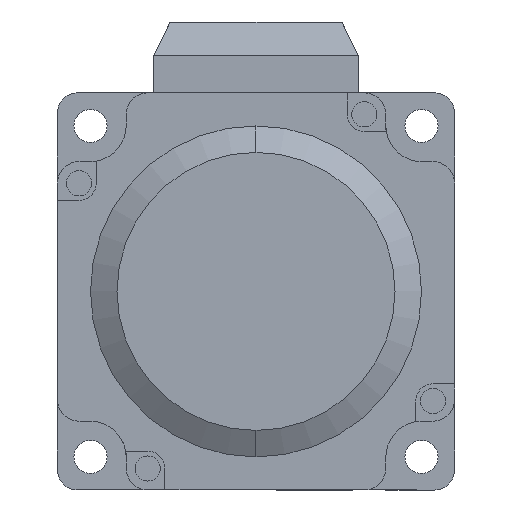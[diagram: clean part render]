
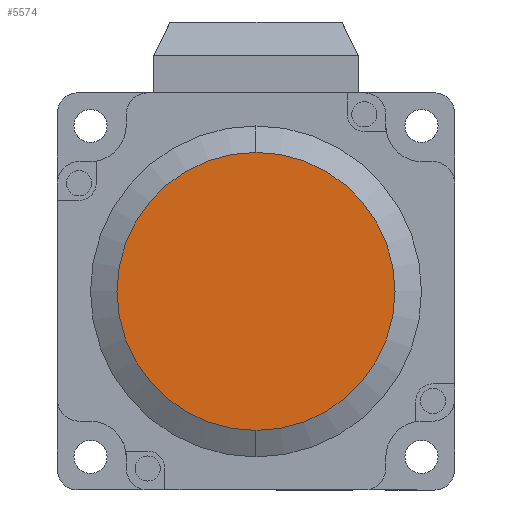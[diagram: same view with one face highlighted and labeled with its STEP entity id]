
A CAD part, front view. The second image highlights one B-rep face of the part: STEP entity #5574.
In plain terms, the highlighted planar face has unit normal (0, -1, 0).
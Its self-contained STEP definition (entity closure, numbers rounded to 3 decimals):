
#91 = CARTESIAN_POINT ( 'NONE',  ( 30., -2.3, -30. ) ) ;
#334 = CARTESIAN_POINT ( 'NONE',  ( 30., -2.3, -9. ) ) ;
#490 = CARTESIAN_POINT ( 'NONE',  ( 30., -2.3, -30. ) ) ;
#750 = AXIS2_PLACEMENT_3D ( 'NONE', #490, #8858, #3871 ) ;
#946 = DIRECTION ( 'NONE',  ( 0., 0., 1. ) ) ;
#1972 = FACE_OUTER_BOUND ( 'NONE', #3518, .T. ) ;
#2466 = VERTEX_POINT ( 'NONE', #334 ) ;
#3024 = PLANE ( 'NONE',  #750 ) ;
#3518 = EDGE_LOOP ( 'NONE', ( #10239, #6097 ) ) ;
#3871 = DIRECTION ( 'NONE',  ( 0., 0., 1. ) ) ;
#4007 = VERTEX_POINT ( 'NONE', #4386 ) ;
#4018 = AXIS2_PLACEMENT_3D ( 'NONE', #4653, #10451, #5477 ) ;
#4386 = CARTESIAN_POINT ( 'NONE',  ( 30., -2.3, -51. ) ) ;
#4653 = CARTESIAN_POINT ( 'NONE',  ( 30., -2.3, -30. ) ) ;
#5477 = DIRECTION ( 'NONE',  ( 0., 0., 1. ) ) ;
#5574 = ADVANCED_FACE ( 'NONE', ( #1972 ), #3024, .F. ) ;
#5979 = DIRECTION ( 'NONE',  ( 0., 1., 0. ) ) ;
#6097 = ORIENTED_EDGE ( 'NONE', *, *, #9995, .F. ) ;
#6394 = AXIS2_PLACEMENT_3D ( 'NONE', #91, #5979, #946 ) ;
#6580 = CIRCLE ( 'NONE', #4018, 21. ) ;
#7926 = EDGE_CURVE ( 'NONE', #2466, #4007, #8007, .T. ) ;
#8007 = CIRCLE ( 'NONE', #6394, 21. ) ;
#8858 = DIRECTION ( 'NONE',  ( 0., 1., 0. ) ) ;
#9995 = EDGE_CURVE ( 'NONE', #4007, #2466, #6580, .T. ) ;
#10239 = ORIENTED_EDGE ( 'NONE', *, *, #7926, .F. ) ;
#10451 = DIRECTION ( 'NONE',  ( 0., 1., 0. ) ) ;
